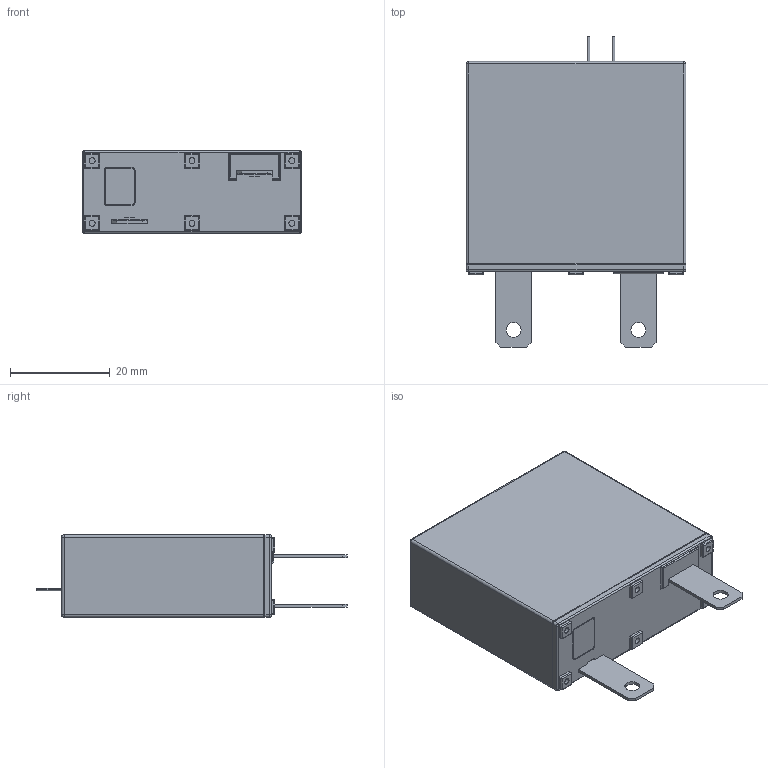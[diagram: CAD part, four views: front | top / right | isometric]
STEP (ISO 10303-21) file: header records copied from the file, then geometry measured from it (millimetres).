
FILE_DESCRIPTION((''),'2;1');
FILE_NAME('TFMOV40K-16-IT-20200620','2020-08-12T',('SET-01114'),(''),'PRO/ENGINEER BY PARAMETRIC TECHNOLOGY CORPORATION, 2012310','PRO/ENGINEER BY PARAMETRIC TECHNOLOGY CORPORATION, 2012310','');
FILE_SCHEMA(('CONFIG_CONTROL_DESIGN','SHAPE_APPEARANCE_LAYERS_GROUPS'));
Length unit declared in the file: millimetre
Products named in the file (1): TFMOV40K-16-IT-20200620
Bounding box: 44 x 62.2 x 16.5 mm (x, y, z)
Volume: 30593.7 mm3; surface area: 7247.3 mm2
Topology: 1 solids, 2 shells, 264 faces, 598 edges, 356 vertices
Faces by surface type: cylinder 113, plane 109, sphere 30, torus 8, bspline 4
Entity records: 9387 total; most frequent: CARTESIAN_POINT 1347, DIRECTION 1326, ORIENTED_EDGE 1196, PRESENTATION_STYLE_ASSIGNMENT 612, STYLED_ITEM 599, CURVE_STYLE 598, EDGE_CURVE 598, AXIS2_PLACEMENT_3D 478
